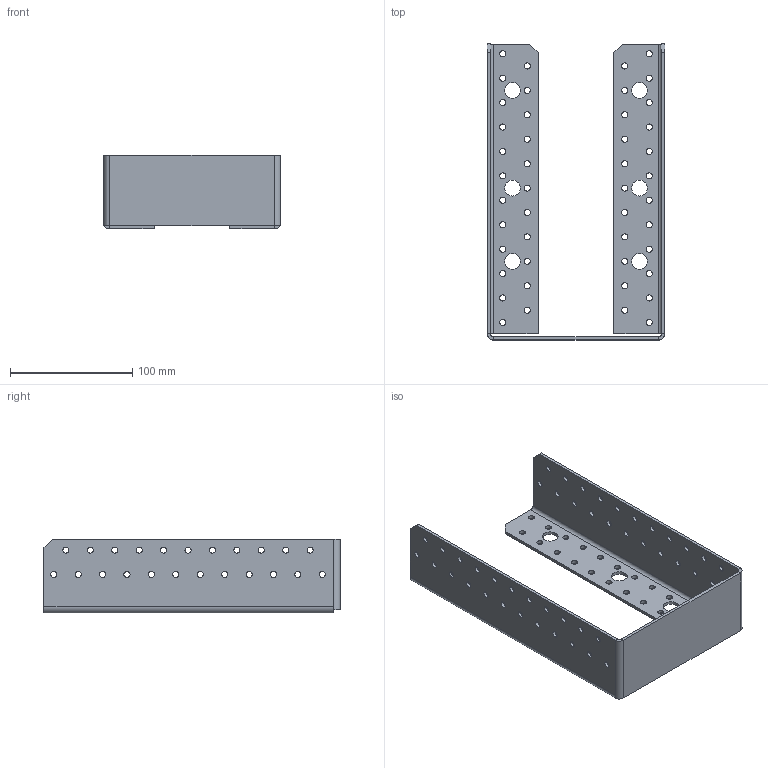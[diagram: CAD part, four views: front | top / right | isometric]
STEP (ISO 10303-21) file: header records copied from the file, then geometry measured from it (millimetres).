
FILE_DESCRIPTION (( 'STEP AP203' ), '1' );
FILE_NAME ('40509IKO.STEP', '2021-04-16T08:10:26', ( '' ), ( '' ), 'SwSTEP 2.0', 'SolidWorks 2013', '' );
FILE_SCHEMA (( 'CONFIG_CONTROL_DESIGN' ));
Length unit declared in the file: millimetre
Products named in the file (1): 40509IKO
Bounding box: 145 x 242.5 x 60.5 mm (x, y, z)
Volume: 130776.2 mm3; surface area: 112605.4 mm2
Topology: 1 solids, 1 shells, 240 faces, 684 edges, 446 vertices
Faces by surface type: cylinder 204, plane 36
Entity records: 8487 total; most frequent: DIRECTION 1576, CARTESIAN_POINT 1371, ORIENTED_EDGE 1368, EDGE_CURVE 684, AXIS2_PLACEMENT_3D 651, VERTEX_POINT 446, EDGE_LOOP 436, CIRCLE 410
